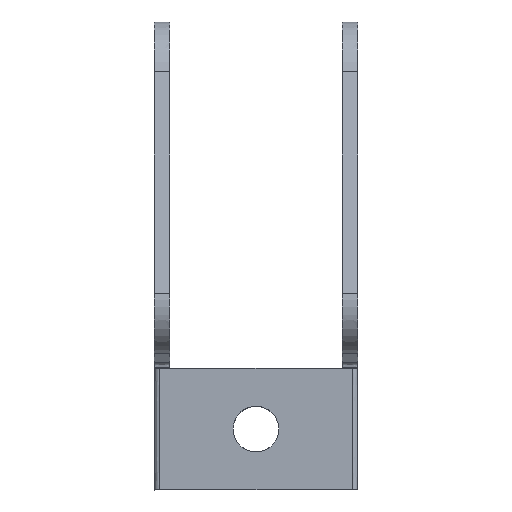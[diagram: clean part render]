
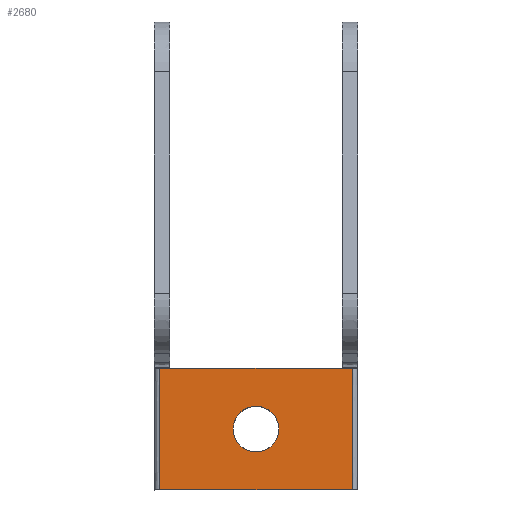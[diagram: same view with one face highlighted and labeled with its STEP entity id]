
A CAD part, top view. The second image highlights one B-rep face of the part: STEP entity #2680.
In plain terms, the highlighted planar face has unit normal (0, 0, 1).
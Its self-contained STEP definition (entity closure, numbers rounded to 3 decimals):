
#22 = B_SPLINE_CURVE_WITH_KNOTS ( 'NONE', 3,
 ( #1640, #1653, #1654, #1655, #1656, #1657, #1658, #1659, #1660, #1661, #1662, #1663, #1664, #1665, #1666, #1667, #1668, #1669, #1670 ),
 .UNSPECIFIED., .F., .F.,
 ( 4, 3, 3, 3, 3, 3, 4 ),
 ( -0.026, -0.021, -0.016, -0.012, -0.007, -0.002, 0.002 ),
 .UNSPECIFIED. ) ;
#30 = B_SPLINE_CURVE_WITH_KNOTS ( 'NONE', 3,
 ( #1789, #1800, #1801, #1802, #1803, #1804, #1805, #1806, #1807, #1808, #1809, #1810, #1811, #1812, #1813, #1814, #1815, #1816, #1817 ),
 .UNSPECIFIED., .F., .F.,
 ( 4, 3, 3, 3, 3, 3, 4 ),
 ( -0.026, -0.021, -0.016, -0.012, -0.007, -0.002, 0.002 ),
 .UNSPECIFIED. ) ;
#84 = AXIS2_PLACEMENT_3D ( 'NONE', #464, #406, #405 ) ;
#155 = VERTEX_POINT ( 'NONE', #658 ) ;
#405 = DIRECTION ( 'NONE',  ( 0., 1., 0. ) ) ;
#406 = DIRECTION ( 'NONE',  ( 0., 0., -1. ) ) ;
#407 = PLANE ( 'NONE',  #84 ) ;
#464 = CARTESIAN_POINT ( 'NONE',  ( -38., -83., -126. ) ) ;
#556 = VERTEX_POINT ( 'NONE', #645 ) ;
#570 = VERTEX_POINT ( 'NONE', #642 ) ;
#598 = CARTESIAN_POINT ( 'NONE',  ( -38., -35., -126. ) ) ;
#605 = CARTESIAN_POINT ( 'NONE',  ( -38., -83., -126. ) ) ;
#614 = VERTEX_POINT ( 'NONE', #636 ) ;
#636 = CARTESIAN_POINT ( 'NONE',  ( 38., -35., -126. ) ) ;
#642 = CARTESIAN_POINT ( 'NONE',  ( 9., -59., -126. ) ) ;
#645 = CARTESIAN_POINT ( 'NONE',  ( -9., -59., -126. ) ) ;
#658 = CARTESIAN_POINT ( 'NONE',  ( 38., -83., -126. ) ) ;
#813 = VERTEX_POINT ( 'NONE', #605 ) ;
#821 = VERTEX_POINT ( 'NONE', #598 ) ;
#1626 = CARTESIAN_POINT ( 'NONE',  ( 38., -83., -126. ) ) ;
#1627 = DIRECTION ( 'NONE',  ( 0., -1., 0. ) ) ;
#1640 = CARTESIAN_POINT ( 'NONE',  ( -9., -59., -126. ) ) ;
#1653 = CARTESIAN_POINT ( 'NONE',  ( -9., -60.58, -126. ) ) ;
#1654 = CARTESIAN_POINT ( 'NONE',  ( -8.584, -62.132, -126. ) ) ;
#1655 = CARTESIAN_POINT ( 'NONE',  ( -7.794, -63.5, -126. ) ) ;
#1656 = CARTESIAN_POINT ( 'NONE',  ( -7.004, -64.868, -126. ) ) ;
#1657 = CARTESIAN_POINT ( 'NONE',  ( -5.868, -66.004, -126. ) ) ;
#1658 = CARTESIAN_POINT ( 'NONE',  ( -4.5, -66.794, -126. ) ) ;
#1659 = CARTESIAN_POINT ( 'NONE',  ( -3.132, -67.584, -126. ) ) ;
#1660 = CARTESIAN_POINT ( 'NONE',  ( -1.58, -68., -126. ) ) ;
#1661 = CARTESIAN_POINT ( 'NONE',  ( 0., -68., -126. ) ) ;
#1662 = CARTESIAN_POINT ( 'NONE',  ( 1.58, -68., -126. ) ) ;
#1663 = CARTESIAN_POINT ( 'NONE',  ( 3.132, -67.584, -126. ) ) ;
#1664 = CARTESIAN_POINT ( 'NONE',  ( 4.5, -66.794, -126. ) ) ;
#1665 = CARTESIAN_POINT ( 'NONE',  ( 5.868, -66.004, -126. ) ) ;
#1666 = CARTESIAN_POINT ( 'NONE',  ( 7.004, -64.868, -126. ) ) ;
#1667 = CARTESIAN_POINT ( 'NONE',  ( 7.794, -63.5, -126. ) ) ;
#1668 = CARTESIAN_POINT ( 'NONE',  ( 8.584, -62.132, -126. ) ) ;
#1669 = CARTESIAN_POINT ( 'NONE',  ( 9., -60.58, -126. ) ) ;
#1670 = CARTESIAN_POINT ( 'NONE',  ( 9., -59., -126. ) ) ;
#1694 = CARTESIAN_POINT ( 'NONE',  ( -38., -35., -126. ) ) ;
#1695 = DIRECTION ( 'NONE',  ( -1., 0., 0. ) ) ;
#1735 = CARTESIAN_POINT ( 'NONE',  ( 40., -83., -126. ) ) ;
#1736 = DIRECTION ( 'NONE',  ( -1., 0., 0. ) ) ;
#1787 = CARTESIAN_POINT ( 'NONE',  ( -38., -83., -126. ) ) ;
#1788 = DIRECTION ( 'NONE',  ( 0., -1., 0. ) ) ;
#1789 = CARTESIAN_POINT ( 'NONE',  ( 9., -59., -126. ) ) ;
#1800 = CARTESIAN_POINT ( 'NONE',  ( 9., -57.42, -126. ) ) ;
#1801 = CARTESIAN_POINT ( 'NONE',  ( 8.584, -55.868, -126. ) ) ;
#1802 = CARTESIAN_POINT ( 'NONE',  ( 7.794, -54.5, -126. ) ) ;
#1803 = CARTESIAN_POINT ( 'NONE',  ( 7.004, -53.132, -126. ) ) ;
#1804 = CARTESIAN_POINT ( 'NONE',  ( 5.868, -51.996, -126. ) ) ;
#1805 = CARTESIAN_POINT ( 'NONE',  ( 4.5, -51.206, -126. ) ) ;
#1806 = CARTESIAN_POINT ( 'NONE',  ( 3.132, -50.416, -126. ) ) ;
#1807 = CARTESIAN_POINT ( 'NONE',  ( 1.58, -50., -126. ) ) ;
#1808 = CARTESIAN_POINT ( 'NONE',  ( 0., -50., -126. ) ) ;
#1809 = CARTESIAN_POINT ( 'NONE',  ( -1.58, -50., -126. ) ) ;
#1810 = CARTESIAN_POINT ( 'NONE',  ( -3.132, -50.416, -126. ) ) ;
#1811 = CARTESIAN_POINT ( 'NONE',  ( -4.5, -51.206, -126. ) ) ;
#1812 = CARTESIAN_POINT ( 'NONE',  ( -5.868, -51.996, -126. ) ) ;
#1813 = CARTESIAN_POINT ( 'NONE',  ( -7.004, -53.132, -126. ) ) ;
#1814 = CARTESIAN_POINT ( 'NONE',  ( -7.794, -54.5, -126. ) ) ;
#1815 = CARTESIAN_POINT ( 'NONE',  ( -8.584, -55.868, -126. ) ) ;
#1816 = CARTESIAN_POINT ( 'NONE',  ( -9., -57.42, -126. ) ) ;
#1817 = CARTESIAN_POINT ( 'NONE',  ( -9., -59., -126. ) ) ;
#2680 = ADVANCED_FACE ( 'NONE', ( #3579, #3923 ), #407, .F. ) ;
#3351 = EDGE_CURVE ( 'NONE', #614, #155, #3625, .T. ) ;
#3360 = EDGE_CURVE ( 'NONE', #556, #570, #22, .T. ) ;
#3364 = EDGE_CURVE ( 'NONE', #614, #821, #3561, .T. ) ;
#3372 = EDGE_CURVE ( 'NONE', #155, #813, #3645, .T. ) ;
#3377 = EDGE_CURVE ( 'NONE', #821, #813, #3729, .T. ) ;
#3379 = EDGE_CURVE ( 'NONE', #570, #556, #30, .T. ) ;
#3508 = ORIENTED_EDGE ( 'NONE', *, *, #3379, .F. ) ;
#3532 = ORIENTED_EDGE ( 'NONE', *, *, #3377, .T. ) ;
#3546 = EDGE_LOOP ( 'NONE', ( #3508, #3932 ) ) ;
#3561 = LINE ( 'NONE', #1694, #3616 ) ;
#3579 = FACE_BOUND ( 'NONE', #3546, .T. ) ;
#3616 = VECTOR ( 'NONE', #1695, 1000. ) ;
#3620 = VECTOR ( 'NONE', #1627, 1000. ) ;
#3625 = LINE ( 'NONE', #1626, #3620 ) ;
#3645 = LINE ( 'NONE', #1735, #3648 ) ;
#3648 = VECTOR ( 'NONE', #1736, 1000. ) ;
#3698 = EDGE_LOOP ( 'NONE', ( #3532, #3894, #3707, #3938 ) ) ;
#3707 = ORIENTED_EDGE ( 'NONE', *, *, #3351, .F. ) ;
#3729 = LINE ( 'NONE', #1787, #3731 ) ;
#3731 = VECTOR ( 'NONE', #1788, 1000. ) ;
#3894 = ORIENTED_EDGE ( 'NONE', *, *, #3372, .F. ) ;
#3923 = FACE_OUTER_BOUND ( 'NONE', #3698, .T. ) ;
#3932 = ORIENTED_EDGE ( 'NONE', *, *, #3360, .F. ) ;
#3938 = ORIENTED_EDGE ( 'NONE', *, *, #3364, .T. ) ;
